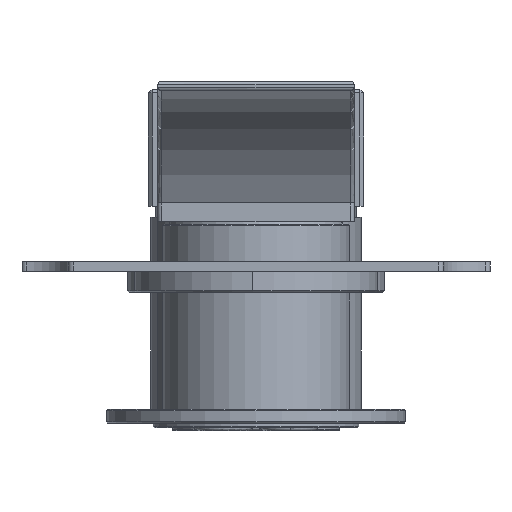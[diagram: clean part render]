
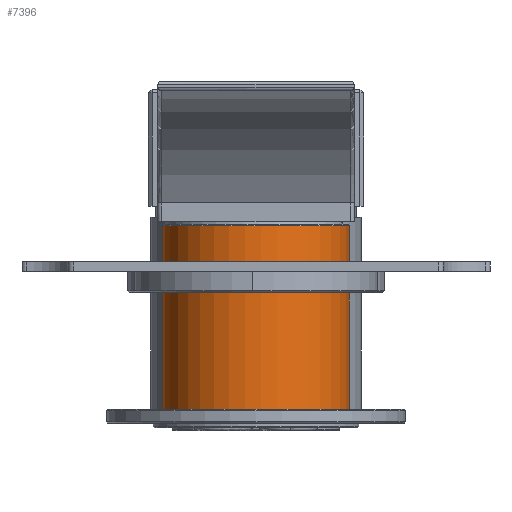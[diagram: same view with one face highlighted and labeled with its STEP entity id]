
A CAD part, front view. The second image highlights one B-rep face of the part: STEP entity #7396.
In plain terms, the highlighted cylindrical face has radius 20 mm (diameter 40 mm), a partial arc.
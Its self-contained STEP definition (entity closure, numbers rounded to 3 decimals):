
#206 = LINE ( 'NONE', #24448, #3379 ) ;
#561 = ORIENTED_EDGE ( 'NONE', *, *, #33019, .F. ) ;
#1171 = CARTESIAN_POINT ( 'NONE',  ( 0., 0., 42.5 ) ) ;
#2973 = CARTESIAN_POINT ( 'NONE',  ( 20., 0., 3.3 ) ) ;
#3379 = VECTOR ( 'NONE', #6802, 1000. ) ;
#4071 = DIRECTION ( 'NONE',  ( 0., 0., -1. ) ) ;
#4899 = CARTESIAN_POINT ( 'NONE',  ( 20., 0., 42.5 ) ) ;
#4916 = VERTEX_POINT ( 'NONE', #2973 ) ;
#5673 = AXIS2_PLACEMENT_3D ( 'NONE', #24954, #6189, #26761 ) ;
#6189 = DIRECTION ( 'NONE',  ( 0., 0., 1. ) ) ;
#6802 = DIRECTION ( 'NONE',  ( 0., 0., -1. ) ) ;
#6919 = CARTESIAN_POINT ( 'NONE',  ( -20., 0., 3.3 ) ) ;
#7396 = ADVANCED_FACE ( 'NONE', ( #15650 ), #24860, .T. ) ;
#9385 = CARTESIAN_POINT ( 'NONE',  ( -20., 0., 42.5 ) ) ;
#10486 = ORIENTED_EDGE ( 'NONE', *, *, #13071, .T. ) ;
#13071 = EDGE_CURVE ( 'NONE', #20554, #4916, #29853, .T. ) ;
#13075 = VECTOR ( 'NONE', #33008, 1000. ) ;
#13965 = VERTEX_POINT ( 'NONE', #32269 ) ;
#15404 = CARTESIAN_POINT ( 'NONE',  ( 0., 0., 3.3 ) ) ;
#15650 = FACE_OUTER_BOUND ( 'NONE', #19496, .T. ) ;
#16243 = EDGE_CURVE ( 'NONE', #21722, #20554, #206, .T. ) ;
#16268 = ORIENTED_EDGE ( 'NONE', *, *, #16243, .T. ) ;
#18106 = DIRECTION ( 'NONE',  ( -1., 0., 0. ) ) ;
#18729 = LINE ( 'NONE', #4899, #13075 ) ;
#19496 = EDGE_LOOP ( 'NONE', ( #26467, #561, #16268, #10486 ) ) ;
#20554 = VERTEX_POINT ( 'NONE', #6919 ) ;
#21722 = VERTEX_POINT ( 'NONE', #9385 ) ;
#22785 = AXIS2_PLACEMENT_3D ( 'NONE', #1171, #4071, #29369 ) ;
#23094 = DIRECTION ( 'NONE',  ( 0., 0., 1. ) ) ;
#24448 = CARTESIAN_POINT ( 'NONE',  ( -20., 0., 42.5 ) ) ;
#24860 = CYLINDRICAL_SURFACE ( 'NONE', #22785, 20. ) ;
#24954 = CARTESIAN_POINT ( 'NONE',  ( 0., 0., 42.5 ) ) ;
#26467 = ORIENTED_EDGE ( 'NONE', *, *, #32615, .F. ) ;
#26761 = DIRECTION ( 'NONE',  ( 1., 0., 0. ) ) ;
#27611 = CIRCLE ( 'NONE', #5673, 20. ) ;
#29369 = DIRECTION ( 'NONE',  ( -1., 0., 0. ) ) ;
#29853 = CIRCLE ( 'NONE', #32994, 20. ) ;
#32269 = CARTESIAN_POINT ( 'NONE',  ( 20., 0., 42.5 ) ) ;
#32615 = EDGE_CURVE ( 'NONE', #13965, #4916, #18729, .T. ) ;
#32994 = AXIS2_PLACEMENT_3D ( 'NONE', #15404, #23094, #18106 ) ;
#33008 = DIRECTION ( 'NONE',  ( 0., 0., -1. ) ) ;
#33019 = EDGE_CURVE ( 'NONE', #21722, #13965, #27611, .T. ) ;
